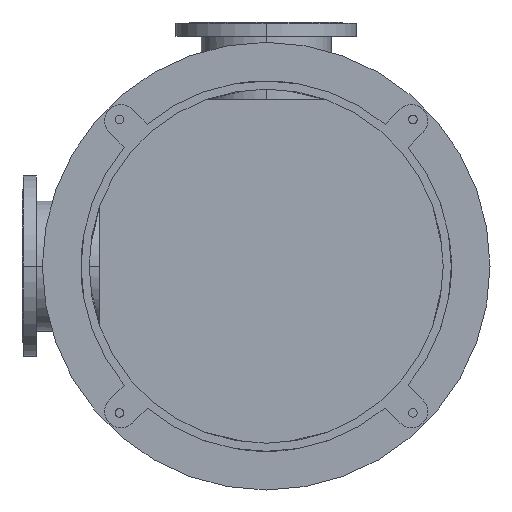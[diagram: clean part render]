
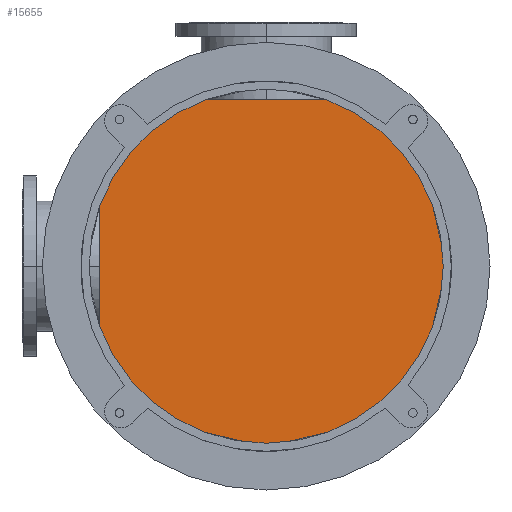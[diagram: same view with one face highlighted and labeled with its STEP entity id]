
A CAD part, front view. The second image highlights one B-rep face of the part: STEP entity #15655.
In plain terms, the highlighted planar face has unit normal (0, -1, 0).
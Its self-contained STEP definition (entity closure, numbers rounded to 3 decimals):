
#3573=CARTESIAN_POINT('',(0.,1000.,0.));
#3574=DIRECTION('',(0.,-1.,0.));
#3575=DIRECTION('',(0.,0.,-1.));
#3576=AXIS2_PLACEMENT_3D('',#3573,#3574,#3575);
#3998=CARTESIAN_POINT('',(0.,1000.,0.));
#3999=DIRECTION('',(0.,-1.,0.));
#4000=DIRECTION('',(0.,0.,1.));
#4001=AXIS2_PLACEMENT_3D('',#3998,#3999,#4000);
#7239=CARTESIAN_POINT('',(0.,1000.,450.));
#7240=CARTESIAN_POINT('',(0.,1000.,-450.));
#7241=VERTEX_POINT('',#7239);
#7242=VERTEX_POINT('',#7240);
#15646=CARTESIAN_POINT('',(0.,1000.,0.));
#15647=DIRECTION('',(0.,1.,0.));
#15648=DIRECTION('',(0.,0.,-1.));
#15649=AXIS2_PLACEMENT_3D('',#15646,#15647,#15648);
#15650=PLANE('',#15649);
#15651=ORIENTED_EDGE('',*,*,#13277,.F.);
#15652=ORIENTED_EDGE('',*,*,#12958,.F.);
#15653=EDGE_LOOP('',(#15651,#15652));
#15654=FACE_OUTER_BOUND('',#15653,.F.);
#15655=ADVANCED_FACE('',(#15654),#15650,.F.);
#3577=CIRCLE('',#3576,450.);
#4002=CIRCLE('',#4001,450.);
#12958=EDGE_CURVE('',#7242,#7241,#3577,.T.);
#13277=EDGE_CURVE('',#7241,#7242,#4002,.T.);
